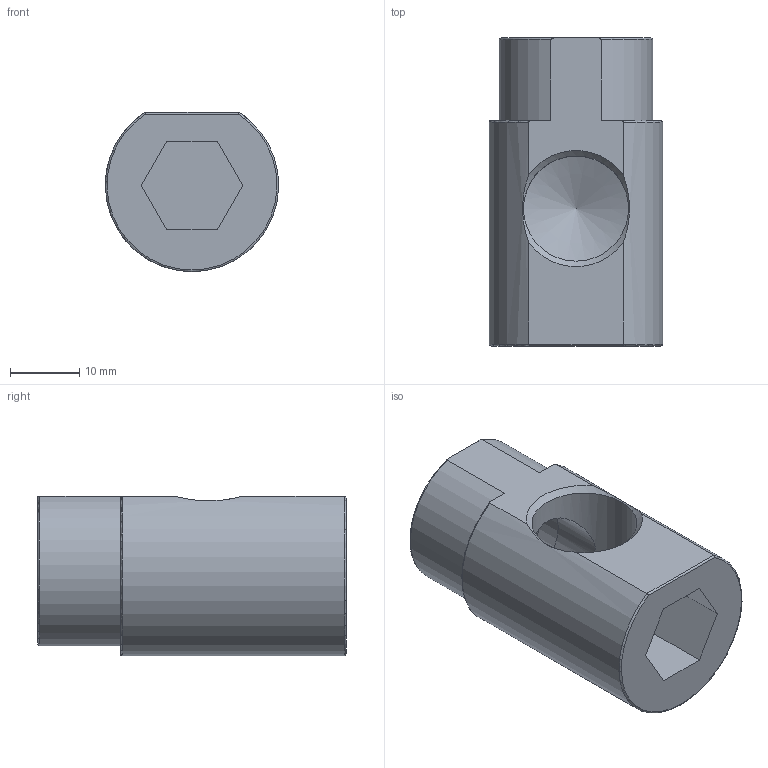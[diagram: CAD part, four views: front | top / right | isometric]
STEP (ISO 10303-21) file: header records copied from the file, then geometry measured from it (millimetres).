
FILE_DESCRIPTION(/* description */ (''),/* implementation_level */ '2;1');
FILE_NAME(/* name */ 'C:/Users/drich/Desktop/HKL38 v1.step',/* time_stamp */ '2019-12-27T17:58:16-06:00',/* author */ (''),/* organization */ (''),/* preprocessor_version */ 'ST-DEVELOPER v18',/* originating_system */ 'Autodesk Translation Framework v8.12.0.6',/* authorisation */ '');
FILE_SCHEMA (('AUTOMOTIVE_DESIGN { 1 0 10303 214 3 1 1 }'));
Length unit declared in the file: inch
Products named in the file (1): HKL38
Bounding box: 25.01 x 44.45 x 23.01 mm (x, y, z)
Volume: 12648.7 mm3; surface area: 5997.9 mm2
Topology: 1 solids, 1 shells, 27 faces, 70 edges, 46 vertices
Faces by surface type: plane 13, cylinder 6, cone 5, torus 3
Full cylindrical faces by diameter (mm): 12.7 x1, 13.889 x1, 15.173 x1
Entity records: 979 total; most frequent: CARTESIAN_POINT 274, ORIENTED_EDGE 138, DIRECTION 135, EDGE_CURVE 69, AXIS2_PLACEMENT_3D 49, VERTEX_POINT 46, LINE 37, VECTOR 37
